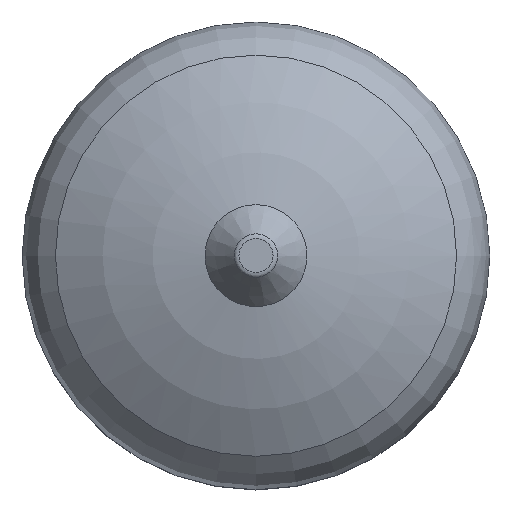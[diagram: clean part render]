
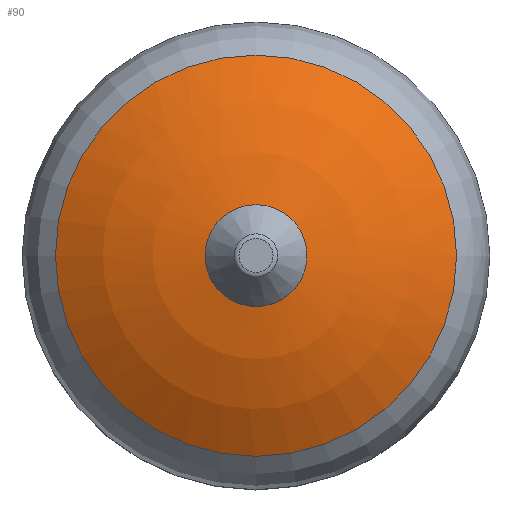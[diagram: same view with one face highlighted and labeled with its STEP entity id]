
A CAD part, top view. The second image highlights one B-rep face of the part: STEP entity #90.
In plain terms, the highlighted spherical face has radius 188 mm.
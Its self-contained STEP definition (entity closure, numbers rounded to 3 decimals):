
#90=ADVANCED_FACE('',(#425,#427),#429,.T.);
#425=FACE_BOUND('',#426,.T.);
#426=EDGE_LOOP('',(#605,#606));
#427=FACE_BOUND('',#428,.T.);
#428=EDGE_LOOP('',(#607,#608));
#429=SPHERICAL_SURFACE('',#430,188.);
#430=AXIS2_PLACEMENT_3D('',#431,#432,#433);
#431=CARTESIAN_POINT('',(0.,0.,56.166));
#432=DIRECTION('',(0.,0.,1.));
#433=DIRECTION('',(1.,0.,0.));
#605=ORIENTED_EDGE('',*,*,#692,.T.);
#606=ORIENTED_EDGE('',*,*,#691,.T.);
#607=ORIENTED_EDGE('',*,*,#693,.F.);
#608=ORIENTED_EDGE('',*,*,#694,.F.);
#691=EDGE_CURVE('',#843,#844,#845,.T.);
#692=EDGE_CURVE('',#844,#843,#846,.T.);
#693=EDGE_CURVE('',#847,#848,#849,.T.);
#694=EDGE_CURVE('',#848,#847,#850,.T.);
#843=VERTEX_POINT('',#1219);
#844=VERTEX_POINT('',#1220);
#845=CIRCLE('',#1221,100.803);
#846=CIRCLE('',#1225,100.803);
#847=VERTEX_POINT('',#1229);
#848=VERTEX_POINT('',#1230);
#849=CIRCLE('',#1231,25.618);
#850=CIRCLE('',#1235,25.618);
#1219=CARTESIAN_POINT('',(-100.803,0.,214.857));
#1220=CARTESIAN_POINT('',(100.803,0.,214.857));
#1221=AXIS2_PLACEMENT_3D('',#1222,#1223,#1224);
#1222=CARTESIAN_POINT('',(0.,0.,214.857));
#1223=DIRECTION('',(0.,0.,1.));
#1224=DIRECTION('',(-1.,0.,0.));
#1225=AXIS2_PLACEMENT_3D('',#1226,#1227,#1228);
#1226=CARTESIAN_POINT('',(0.,0.,214.857));
#1227=DIRECTION('',(0.,0.,1.));
#1228=DIRECTION('',(1.,0.,0.));
#1229=CARTESIAN_POINT('',(-25.618,0.,242.413));
#1230=CARTESIAN_POINT('',(25.618,0.,242.413));
#1231=AXIS2_PLACEMENT_3D('',#1232,#1233,#1234);
#1232=CARTESIAN_POINT('',(0.,0.,242.413));
#1233=DIRECTION('',(0.,0.,1.));
#1234=DIRECTION('',(-1.,0.,0.));
#1235=AXIS2_PLACEMENT_3D('',#1236,#1237,#1238);
#1236=CARTESIAN_POINT('',(0.,0.,242.413));
#1237=DIRECTION('',(0.,0.,1.));
#1238=DIRECTION('',(1.,0.,0.));
